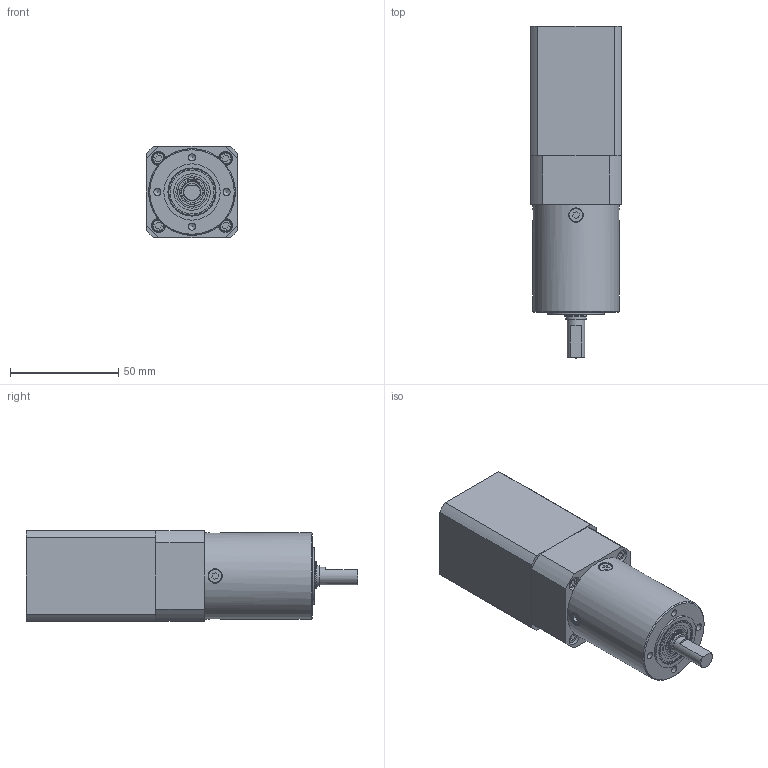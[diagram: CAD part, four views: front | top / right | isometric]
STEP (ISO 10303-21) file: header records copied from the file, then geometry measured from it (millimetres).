
FILE_DESCRIPTION( ( 'Unknown' ), '1' );
FILE_NAME( 'S:/Products/Mecatix/Drawings + CAD with Mecatix logo - Kopi/MST17x_R10 & MST176A163L3AA3.0.stp', 'Unknown', ( 'Unknown' ), ( 'Unknown' ), 'PSStep 11.0', 'Unknown', ' ' );
FILE_SCHEMA( ( 'AUTOMOTIVE_DESIGN { 1 0 10303 214 1 1 1 1 }' ) );
Length unit declared in the file: millimetre
Products named in the file (1): 11-M3x22
Bounding box: 42.3 x 153.4 x 42.3 mm (x, y, z)
Volume: 193446 mm3; surface area: 44681.1 mm2
Topology: 1 solids, 29 shells, 427 faces, 968 edges, 632 vertices
Faces by surface type: plane 217, cylinder 146, cone 49, torus 15
Full cylindrical faces by diameter (mm): 1 x2, 2.459 x4, 2.5 x4, 3 x8, 3.2 x8, 3.3 x6, 4 x1, 4.44 x1, 4.95 x3, 5 x11, 5.5 x4, 6 x4, 6.5 x4, 6.6 x4, 6.65 x1, 8 x7, 8.94 x1, 9.5 x2, 9.525 x2, 9.6 x1, 10 x1, 11 x1, 11.45 x4, 12 x2, 13.2 x1, 14.88 x4, 16.88 x4, 17 x1, 17.2 x1, 18 x2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
Entity records: 14438 total; most frequent: CARTESIAN_POINT 2524, DIRECTION 1870, ORIENTED_EDGE 1336, AXIS2_PLACEMENT_3D 797, EDGE_LOOP 703, EDGE_CURVE 668, FACE_OUTER_BOUND 562, VERTEX_POINT 527
